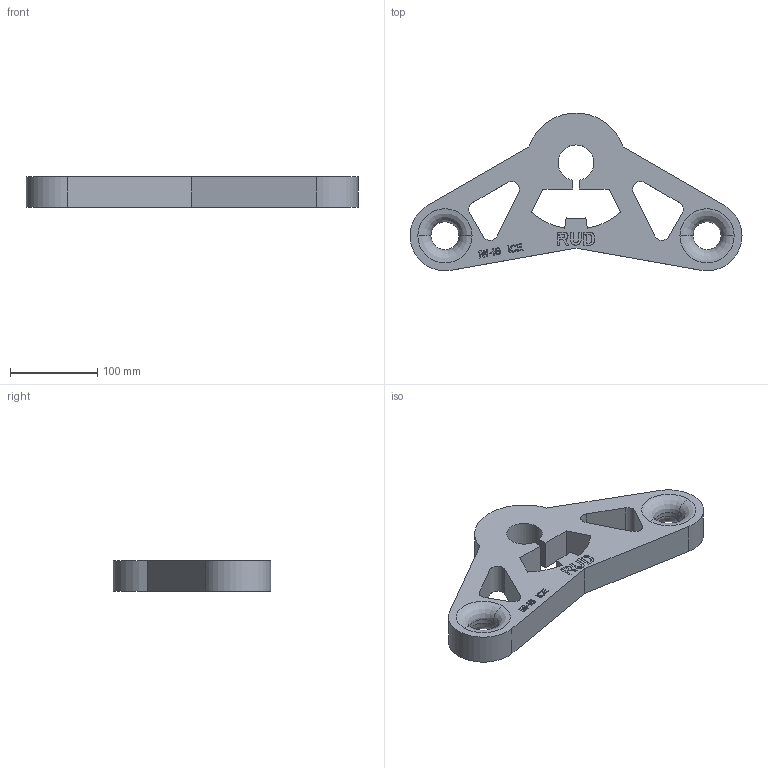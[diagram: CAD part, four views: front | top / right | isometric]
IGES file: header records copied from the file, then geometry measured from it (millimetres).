
Start section:  PTC IGES file: IW-16_7904255_M34674-P-2.igs
Global section: file name: IW-16_7904255_M34674-P-2.igs; native system: Pro/ENGINEER by Parametric Technology Corporation; preprocessor: 2010140; author: Andreas.Wendler; organization: Unknown; date: 20150518.082453; units: millimetre
Bounding box: 380 x 180.3 x 35 mm (x, y, z)
Volume: 1055915.4 mm3; surface area: 126272.4 mm2
Topology: 1 solids, 1 shells, 239 faces, 667 edges, 442 vertices
Faces by surface type: bspline 205, revolution 34
